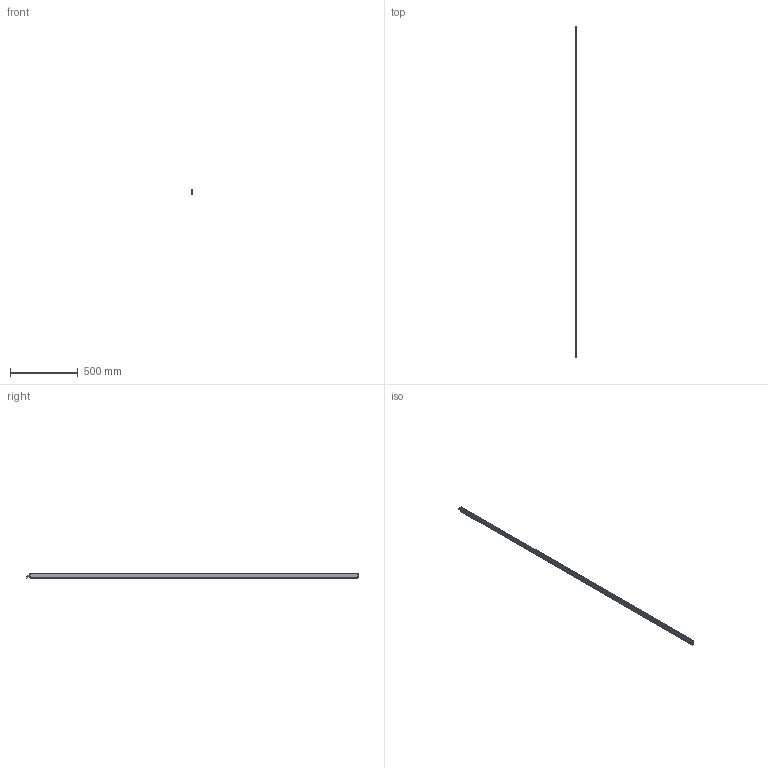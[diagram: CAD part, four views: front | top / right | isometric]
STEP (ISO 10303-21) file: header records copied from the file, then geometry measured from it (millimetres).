
FILE_DESCRIPTION (( 'STEP AP214' ), '1' );
FILE_NAME ('ILG-L-K1-2430mm.STEP', '2017-07-11T07:19:22', ( '' ), ( '' ), 'SwSTEP 2.0', 'SolidWorks 2016', '' );
FILE_SCHEMA (( 'AUTOMOTIVE_DESIGN' ));
Length unit declared in the file: millimetre
Products named in the file (1): ILG-L-K1-2430mm
Bounding box: 9 x 2458.25 x 40.71 mm (x, y, z)
Volume: 342155.5 mm3; surface area: 476813.7 mm2
Topology: 9 solids, 9 shells, 432 faces, 1114 edges, 702 vertices
Faces by surface type: plane 205, cylinder 153, cone 64, torus 10
Entity records: 18006 total; most frequent: CARTESIAN_POINT 2397, DIRECTION 2342, ORIENTED_EDGE 2212, EDGE_CURVE 1106, AXIS2_PLACEMENT_3D 855, VERTEX_POINT 702, LINE 632, VECTOR 632
